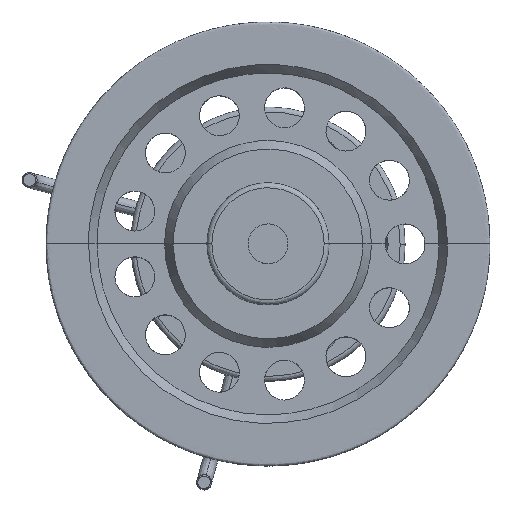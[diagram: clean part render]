
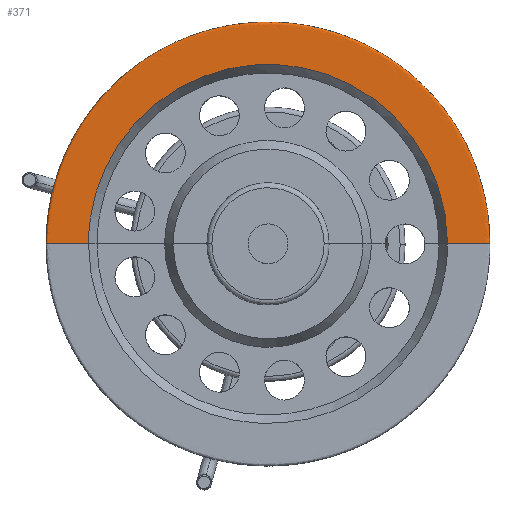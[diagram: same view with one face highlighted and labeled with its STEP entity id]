
A CAD part, top view. The second image highlights one B-rep face of the part: STEP entity #371.
In plain terms, the highlighted free-form (B-spline) face has degree [2, 2] with [9, 5] control points.
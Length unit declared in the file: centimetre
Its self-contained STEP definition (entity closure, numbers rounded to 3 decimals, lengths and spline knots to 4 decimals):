
#371=ADVANCED_FACE($,(#641),#3466,.T.);
#641=FACE_OUTER_BOUND($,#956,.T.);
#956=EDGE_LOOP($,(#1861,#1862,#1863,#1864));
#1861=ORIENTED_EDGE($,*,*,#2705,.F.);
#1862=ORIENTED_EDGE($,*,*,#2690,.T.);
#1863=ORIENTED_EDGE($,*,*,#2688,.T.);
#1864=ORIENTED_EDGE($,*,*,#2766,.F.);
#2688=EDGE_CURVE($,#3148,#3196,#12855,.T.);
#2690=EDGE_CURVE($,#3149,#3148,#12857,.T.);
#2705=EDGE_CURVE($,#3149,#3195,#12865,.T.);
#2766=EDGE_CURVE($,#3195,#3196,#12900,.T.);
#3148=VERTEX_POINT($,#11459);
#3149=VERTEX_POINT($,#11460);
#3195=VERTEX_POINT($,#11506);
#3196=VERTEX_POINT($,#11507);
#3466=(
BOUNDED_SURFACE()
B_SPLINE_SURFACE(2,2,((#10666,#10667,#10668,#10669,#10670),(#10671,#10672,
#10673,#10674,#10675),(#10676,#10677,#10678,#10679,#10680),(#10681,#10682,
#10683,#10684,#10685),(#10686,#10687,#10688,#10689,#10690),(#10691,#10692,
#10693,#10694,#10695),(#10696,#10697,#10698,#10699,#10700),(#10701,#10702,
#10703,#10704,#10705),(#10706,#10707,#10708,#10709,#10710)),.UNSPECIFIED.,
.F.,.F.,.F.)
B_SPLINE_SURFACE_WITH_KNOTS((3,2,2,2,3),(3,2,3),(238.5272,254.5272,
256.098,256.5654,257.6565),(0.,1.5708,
3.1416),.UNSPECIFIED.)
GEOMETRIC_REPRESENTATION_ITEM()
RATIONAL_B_SPLINE_SURFACE(((1.,0.707,1.,0.707,1.),
(1.,0.707,1.,0.707,1.),(1.,0.707,1.,
0.707,1.),(0.707,0.5,0.707,0.5,0.707),
(1.,0.707,1.,0.707,1.),(1.,0.707,1.,
0.707,1.),(1.,0.707,1.,0.707,1.),(0.855,
0.604,0.855,0.604,0.855),
(1.,0.707,1.,0.707,1.)))
REPRESENTATION_ITEM($)
SURFACE()
);
#9958=CARTESIAN_POINT($,(274.4899,41.5434,63.6454));
#9959=CARTESIAN_POINT($,(274.4899,130.005,63.6454));
#9960=CARTESIAN_POINT($,(186.0284,130.005,63.6454));
#9961=CARTESIAN_POINT($,(97.5669,130.005,63.6454));
#9962=CARTESIAN_POINT($,(97.5669,41.5434,63.6454));
#9976=CARTESIAN_POINT($,(258.0284,41.5434,66.));
#9977=CARTESIAN_POINT($,(266.0284,41.5434,66.));
#9978=CARTESIAN_POINT($,(274.0284,41.5434,66.));
#9979=CARTESIAN_POINT($,(275.0284,41.5434,66.));
#9980=CARTESIAN_POINT($,(275.0284,41.5434,65.));
#9981=CARTESIAN_POINT($,(275.0284,41.5434,64.7663));
#9982=CARTESIAN_POINT($,(275.0284,41.5434,64.5326));
#9983=CARTESIAN_POINT($,(275.0284,41.5434,63.9256));
#9984=CARTESIAN_POINT($,(274.4899,41.5434,63.6454));
#10046=CARTESIAN_POINT($,(258.0284,41.5434,66.));
#10047=CARTESIAN_POINT($,(258.0284,113.5434,66.));
#10048=CARTESIAN_POINT($,(186.0284,113.5434,66.));
#10049=CARTESIAN_POINT($,(114.0284,113.5434,66.));
#10050=CARTESIAN_POINT($,(114.0284,41.5434,66.));
#10314=CARTESIAN_POINT($,(114.0284,41.5434,66.));
#10315=CARTESIAN_POINT($,(106.0284,41.5434,66.));
#10316=CARTESIAN_POINT($,(98.0284,41.5434,66.));
#10317=CARTESIAN_POINT($,(97.0284,41.5434,66.));
#10318=CARTESIAN_POINT($,(97.0284,41.5434,65.));
#10319=CARTESIAN_POINT($,(97.0284,41.5434,64.7663));
#10320=CARTESIAN_POINT($,(97.0284,41.5434,64.5326));
#10321=CARTESIAN_POINT($,(97.0284,41.5434,63.9256));
#10322=CARTESIAN_POINT($,(97.5669,41.5434,63.6454));
#10666=CARTESIAN_POINT($,(258.0284,41.5434,66.));
#10667=CARTESIAN_POINT($,(258.0284,113.5434,66.));
#10668=CARTESIAN_POINT($,(186.0284,113.5434,66.));
#10669=CARTESIAN_POINT($,(114.0284,113.5434,66.));
#10670=CARTESIAN_POINT($,(114.0284,41.5434,66.));
#10671=CARTESIAN_POINT($,(266.0284,41.5434,66.));
#10672=CARTESIAN_POINT($,(266.0284,121.5434,66.));
#10673=CARTESIAN_POINT($,(186.0284,121.5434,66.));
#10674=CARTESIAN_POINT($,(106.0284,121.5434,66.));
#10675=CARTESIAN_POINT($,(106.0284,41.5434,66.));
#10676=CARTESIAN_POINT($,(274.0284,41.5434,66.));
#10677=CARTESIAN_POINT($,(274.0284,129.5434,66.));
#10678=CARTESIAN_POINT($,(186.0284,129.5434,66.));
#10679=CARTESIAN_POINT($,(98.0284,129.5434,66.));
#10680=CARTESIAN_POINT($,(98.0284,41.5434,66.));
#10681=CARTESIAN_POINT($,(275.0284,41.5434,66.));
#10682=CARTESIAN_POINT($,(275.0284,130.5434,66.));
#10683=CARTESIAN_POINT($,(186.0284,130.5434,66.));
#10684=CARTESIAN_POINT($,(97.0284,130.5434,66.));
#10685=CARTESIAN_POINT($,(97.0284,41.5434,66.));
#10686=CARTESIAN_POINT($,(275.0284,41.5434,65.));
#10687=CARTESIAN_POINT($,(275.0284,130.5434,65.));
#10688=CARTESIAN_POINT($,(186.0284,130.5434,65.));
#10689=CARTESIAN_POINT($,(97.0284,130.5434,65.));
#10690=CARTESIAN_POINT($,(97.0284,41.5434,65.));
#10691=CARTESIAN_POINT($,(275.0284,41.5434,64.7663));
#10692=CARTESIAN_POINT($,(275.0284,130.5434,64.7663));
#10693=CARTESIAN_POINT($,(186.0284,130.5434,64.7663));
#10694=CARTESIAN_POINT($,(97.0284,130.5434,64.7663));
#10695=CARTESIAN_POINT($,(97.0284,41.5434,64.7663));
#10696=CARTESIAN_POINT($,(275.0284,41.5434,64.5326));
#10697=CARTESIAN_POINT($,(275.0284,130.5434,64.5326));
#10698=CARTESIAN_POINT($,(186.0284,130.5434,64.5326));
#10699=CARTESIAN_POINT($,(97.0284,130.5434,64.5326));
#10700=CARTESIAN_POINT($,(97.0284,41.5434,64.5326));
#10701=CARTESIAN_POINT($,(275.0284,41.5434,63.9256));
#10702=CARTESIAN_POINT($,(275.0284,130.5434,63.9256));
#10703=CARTESIAN_POINT($,(186.0284,130.5434,63.9256));
#10704=CARTESIAN_POINT($,(97.0284,130.5434,63.9256));
#10705=CARTESIAN_POINT($,(97.0284,41.5434,63.9256));
#10706=CARTESIAN_POINT($,(274.4899,41.5434,63.6454));
#10707=CARTESIAN_POINT($,(274.4899,130.005,63.6454));
#10708=CARTESIAN_POINT($,(186.0284,130.005,63.6454));
#10709=CARTESIAN_POINT($,(97.5669,130.005,63.6454));
#10710=CARTESIAN_POINT($,(97.5669,41.5434,63.6454));
#11459=CARTESIAN_POINT($,(274.4899,41.5434,63.6454));
#11460=CARTESIAN_POINT($,(258.0284,41.5434,66.));
#11506=CARTESIAN_POINT($,(114.0284,41.5434,66.));
#11507=CARTESIAN_POINT($,(97.5669,41.5434,63.6454));
#12855=(
BOUNDED_CURVE()
B_SPLINE_CURVE(2,(#9958,#9959,#9960,#9961,#9962),.UNSPECIFIED.,.F.,.F.)
B_SPLINE_CURVE_WITH_KNOTS((3,2,3),(0.,1.5708,3.1416),
.UNSPECIFIED.)
CURVE()
GEOMETRIC_REPRESENTATION_ITEM()
RATIONAL_B_SPLINE_CURVE((1.,0.707,1.,0.707,1.))
REPRESENTATION_ITEM($)
);
#12857=(
BOUNDED_CURVE()
B_SPLINE_CURVE(2,(#9976,#9977,#9978,#9979,#9980,#9981,#9982,#9983,#9984),
.UNSPECIFIED.,.F.,.F.)
B_SPLINE_CURVE_WITH_KNOTS((3,2,2,2,3),(238.5272,254.5272,256.098,
256.5654,257.6565),.UNSPECIFIED.)
CURVE()
GEOMETRIC_REPRESENTATION_ITEM()
RATIONAL_B_SPLINE_CURVE((1.,1.,1.,0.707,1.,1.,1.,0.855,
1.))
REPRESENTATION_ITEM($)
);
#12865=(
BOUNDED_CURVE()
B_SPLINE_CURVE(2,(#10046,#10047,#10048,#10049,#10050),.UNSPECIFIED.,.F.,
.F.)
B_SPLINE_CURVE_WITH_KNOTS((3,2,3),(0.,1.5708,3.1416),
.UNSPECIFIED.)
CURVE()
GEOMETRIC_REPRESENTATION_ITEM()
RATIONAL_B_SPLINE_CURVE((1.,0.707,1.,0.707,1.))
REPRESENTATION_ITEM($)
);
#12900=(
BOUNDED_CURVE()
B_SPLINE_CURVE(2,(#10314,#10315,#10316,#10317,#10318,#10319,#10320,#10321,
#10322),.UNSPECIFIED.,.F.,.F.)
B_SPLINE_CURVE_WITH_KNOTS((3,2,2,2,3),(238.5272,254.5272,256.098,
256.5654,257.6565),.UNSPECIFIED.)
CURVE()
GEOMETRIC_REPRESENTATION_ITEM()
RATIONAL_B_SPLINE_CURVE((1.,1.,1.,0.707,1.,1.,1.,0.855,
1.))
REPRESENTATION_ITEM($)
);
